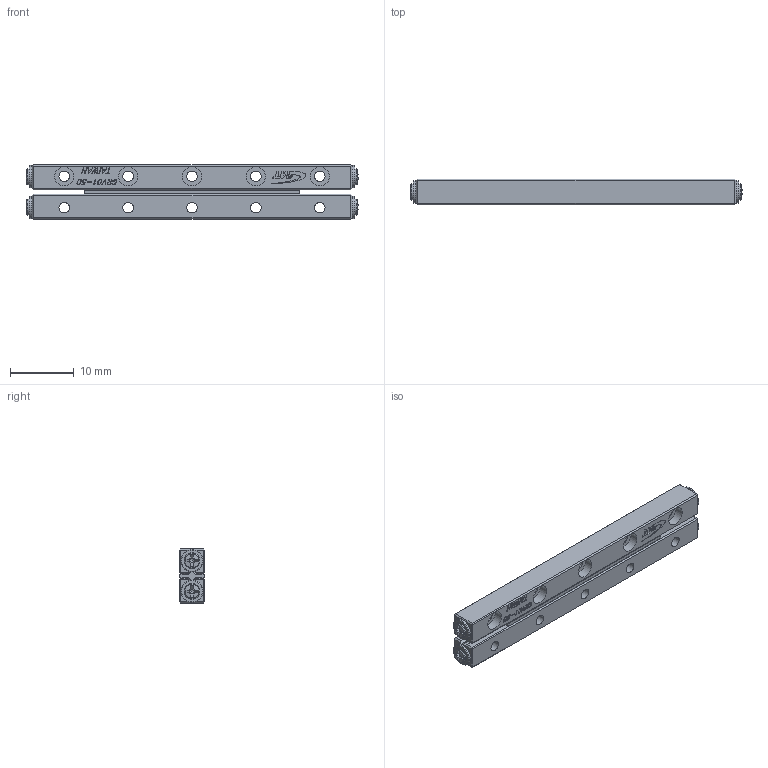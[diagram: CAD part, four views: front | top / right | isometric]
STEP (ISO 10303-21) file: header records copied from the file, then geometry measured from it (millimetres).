
FILE_DESCRIPTION (( 'STEP AP203' ), '1' );
FILE_NAME ('GRV01-50.STEP', '2023-08-01T00:54:38', ( '' ), ( '' ), 'SwSTEP 2.0', 'SolidWorks 2019', '' );
FILE_SCHEMA (( 'CONFIG_CONTROL_DESIGN' ));
Length unit declared in the file: millimetre
Products named in the file (3): GRVP01-50-模糊化保持器組; GRV01-50; GRV01-50-模糊化軌道
Assembly tree (3 placements, depth 2):
  GRV01-50
    GRV01-50-模糊化軌道  x2
    GRVP01-50-模糊化保持器組
Bounding box: 51.96 x 4 x 8.5 mm (x, y, z)
Volume: 1423.3 mm3; surface area: 2388.9 mm2
Topology: 3 solids, 7 shells, 1262 faces, 3308 edges, 2160 vertices
Faces by surface type: plane 886, bspline 220, cylinder 78, cone 40, torus 34, sphere 4
Full cylindrical faces by diameter (mm): 1.32 x4, 1.65 x10, 2.5 x4, 3 x10, 3.5 x4
Entity records: 23814 total; most frequent: CARTESIAN_POINT 6879, ORIENTED_EDGE 3662, DIRECTION 2903, EDGE_CURVE 1831, LINE 1315, VECTOR 1315, VERTEX_POINT 1212, EDGE_LOOP 831
